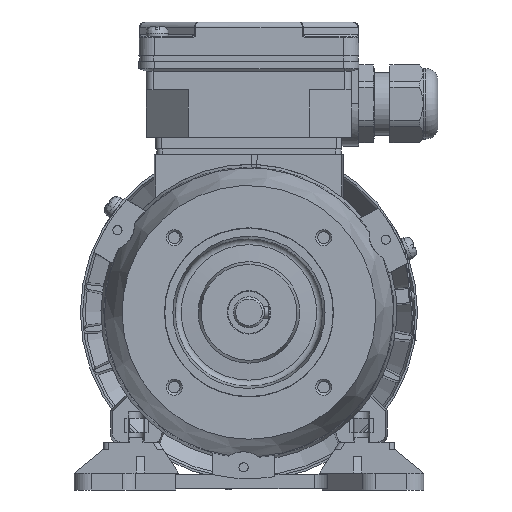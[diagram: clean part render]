
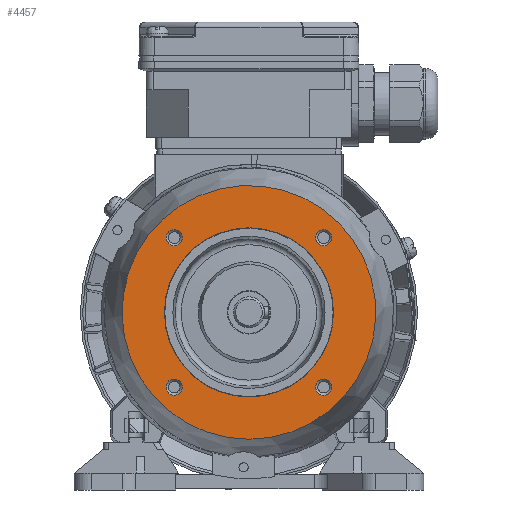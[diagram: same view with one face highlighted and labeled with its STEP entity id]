
A CAD part, left-side view. The second image highlights one B-rep face of the part: STEP entity #4457.
In plain terms, the highlighted planar face has unit normal (-1, 0, 0) as drawn and (0, -1, 0) by its records, which use the part's own axes.
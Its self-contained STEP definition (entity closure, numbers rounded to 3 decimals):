
#4457 = ADVANCED_FACE( '', ( #9501, #9502, #9503, #9504, #9505, #9506 ), #9507, .T. );
#9501 = FACE_BOUND( '', #20091, .T. );
#9502 = FACE_BOUND( '', #20092, .T. );
#9503 = FACE_BOUND( '', #20093, .T. );
#9504 = FACE_BOUND( '', #20094, .T. );
#9505 = FACE_OUTER_BOUND( '', #20095, .T. );
#9506 = FACE_BOUND( '', #20096, .T. );
#9507 = PLANE( '', #20097 );
#20091 = EDGE_LOOP( '', ( #35405 ) );
#20092 = EDGE_LOOP( '', ( #35406 ) );
#20093 = EDGE_LOOP( '', ( #35407 ) );
#20094 = EDGE_LOOP( '', ( #35408 ) );
#20095 = EDGE_LOOP( '', ( #35409 ) );
#20096 = EDGE_LOOP( '', ( #35410 ) );
#20097 = AXIS2_PLACEMENT_3D( '', #35411, #35412, #35413 );
#35405 = ORIENTED_EDGE( '', *, *, #48091, .T. );
#35406 = ORIENTED_EDGE( '', *, *, #46830, .T. );
#35407 = ORIENTED_EDGE( '', *, *, #46827, .T. );
#35408 = ORIENTED_EDGE( '', *, *, #48092, .T. );
#35409 = ORIENTED_EDGE( '', *, *, #45905, .T. );
#35410 = ORIENTED_EDGE( '', *, *, #47839, .F. );
#35411 = CARTESIAN_POINT( '', ( 0., 2.5, 30. ) );
#35412 = DIRECTION( '', ( 0., -1., 0. ) );
#35413 = DIRECTION( '', ( 0., 0., -1. ) );
#45905 = EDGE_CURVE( '', #54218, #54218, #54219, .T. );
#46827 = EDGE_CURVE( '', #55639, #55639, #55640, .F. );
#46830 = EDGE_CURVE( '', #55644, #55644, #55645, .F. );
#47839 = EDGE_CURVE( '', #57115, #57115, #57116, .T. );
#48091 = EDGE_CURVE( '', #57475, #57475, #57476, .F. );
#48092 = EDGE_CURVE( '', #57477, #57477, #57478, .F. );
#54218 = VERTEX_POINT( '', #68597 );
#54219 = CIRCLE( '', #68598, 45. );
#55639 = VERTEX_POINT( '', #71767 );
#55640 = CIRCLE( '', #71768, 2.867 );
#55644 = VERTEX_POINT( '', #71772 );
#55645 = CIRCLE( '', #71773, 2.867 );
#57115 = VERTEX_POINT( '', #74742 );
#57116 = CIRCLE( '', #74743, 30. );
#57475 = VERTEX_POINT( '', #75262 );
#57476 = CIRCLE( '', #75263, 2.867 );
#57477 = VERTEX_POINT( '', #75264 );
#57478 = CIRCLE( '', #75265, 2.867 );
#68597 = CARTESIAN_POINT( '', ( 0., 2.5, -45. ) );
#68598 = AXIS2_PLACEMENT_3D( '', #83201, #83202, #83203 );
#71767 = CARTESIAN_POINT( '', ( 26.517, 2.5, 23.65 ) );
#71768 = AXIS2_PLACEMENT_3D( '', #84285, #84286, #84287 );
#71772 = CARTESIAN_POINT( '', ( 26.517, 2.5, -29.384 ) );
#71773 = AXIS2_PLACEMENT_3D( '', #84291, #84292, #84293 );
#74742 = CARTESIAN_POINT( '', ( 0., 2.5, -30. ) );
#74743 = AXIS2_PLACEMENT_3D( '', #85349, #85350, #85351 );
#75262 = CARTESIAN_POINT( '', ( -26.517, 2.5, -29.384 ) );
#75263 = AXIS2_PLACEMENT_3D( '', #85772, #85773, #85774 );
#75264 = CARTESIAN_POINT( '', ( -26.517, 2.5, 23.65 ) );
#75265 = AXIS2_PLACEMENT_3D( '', #85775, #85776, #85777 );
#83201 = CARTESIAN_POINT( '', ( 0., 2.5, 0. ) );
#83202 = DIRECTION( '', ( 0., -1., 0. ) );
#83203 = DIRECTION( '', ( 0., 0., -1. ) );
#84285 = CARTESIAN_POINT( '', ( 26.517, 2.5, 26.517 ) );
#84286 = DIRECTION( '', ( 0., -1., 0. ) );
#84287 = DIRECTION( '', ( 0., 0., -1. ) );
#84291 = CARTESIAN_POINT( '', ( 26.517, 2.5, -26.517 ) );
#84292 = DIRECTION( '', ( 0., -1., 0. ) );
#84293 = DIRECTION( '', ( 0., 0., -1. ) );
#85349 = CARTESIAN_POINT( '', ( 0., 2.5, 0. ) );
#85350 = DIRECTION( '', ( 0., -1., 0. ) );
#85351 = DIRECTION( '', ( 0., 0., -1. ) );
#85772 = CARTESIAN_POINT( '', ( -26.517, 2.5, -26.517 ) );
#85773 = DIRECTION( '', ( 0., -1., 0. ) );
#85774 = DIRECTION( '', ( 0., 0., -1. ) );
#85775 = CARTESIAN_POINT( '', ( -26.517, 2.5, 26.517 ) );
#85776 = DIRECTION( '', ( 0., -1., 0. ) );
#85777 = DIRECTION( '', ( 0., 0., -1. ) );
